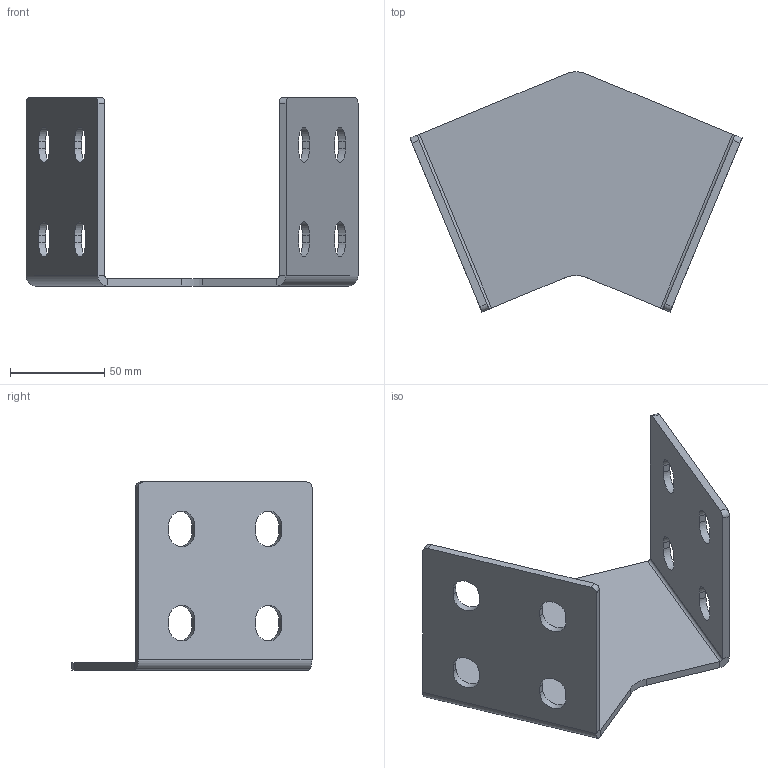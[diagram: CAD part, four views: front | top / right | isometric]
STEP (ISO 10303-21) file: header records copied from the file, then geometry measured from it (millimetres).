
FILE_DESCRIPTION (( 'STEP AP214' ), '1' );
FILE_NAME ('10010045.STEP', '2018-03-09T05:30:50', ( '' ), ( '' ), 'SwSTEP 2.0', 'SolidWorks 2014', '' );
FILE_SCHEMA (( 'AUTOMOTIVE_DESIGN' ));
Length unit declared in the file: millimetre
Products named in the file (2): 10010045
Bounding box: 176.54 x 127.67 x 100 mm (x, y, z)
Volume: 127856.7 mm3; surface area: 69175.8 mm2
Topology: 1 solids, 1 shells, 62 faces, 164 edges, 104 vertices
Faces by surface type: plane 36, cylinder 26
Entity records: 1993 total; most frequent: DIRECTION 344, CARTESIAN_POINT 332, ORIENTED_EDGE 328, EDGE_CURVE 164, AXIS2_PLACEMENT_3D 116, VECTOR 112, LINE 112, VERTEX_POINT 104
